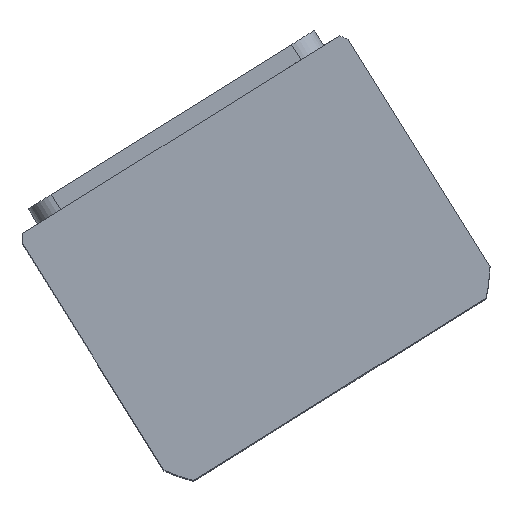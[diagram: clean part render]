
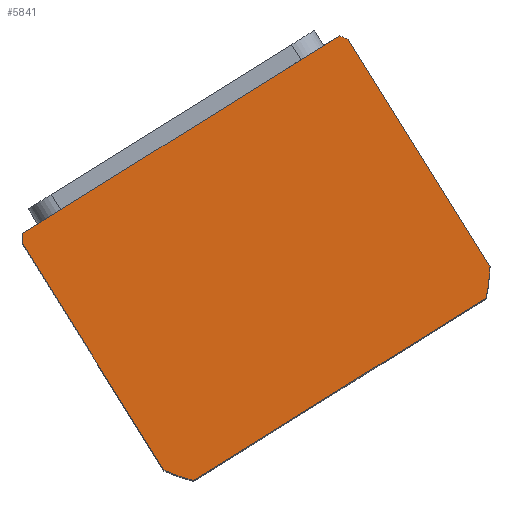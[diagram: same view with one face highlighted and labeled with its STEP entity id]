
A CAD part, top view. The second image highlights one B-rep face of the part: STEP entity #5841.
In plain terms, the highlighted planar face has unit normal (0, 0, 1) as drawn and (0, 0, -1) by its records, which use the part's own axes.
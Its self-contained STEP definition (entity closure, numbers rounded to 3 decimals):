
#130 = VERTEX_POINT ( 'NONE', #17025 ) ;
#387 = DIRECTION ( 'NONE',  ( 1., 0., 0. ) ) ;
#590 = VERTEX_POINT ( 'NONE', #16563 ) ;
#799 = EDGE_CURVE ( 'NONE', #7710, #15273, #21201, .T. ) ;
#1049 = CIRCLE ( 'NONE', #6453, 69.5 ) ;
#1474 = DIRECTION ( 'NONE',  ( 0., 1., 0. ) ) ;
#1563 = DIRECTION ( 'NONE',  ( 0., -1., 0. ) ) ;
#1925 = FACE_OUTER_BOUND ( 'NONE', #5365, .T. ) ;
#2555 = VERTEX_POINT ( 'NONE', #9736 ) ;
#2737 = CARTESIAN_POINT ( 'NONE',  ( 0., 0., 0. ) ) ;
#3129 = LINE ( 'NONE', #10257, #20833 ) ;
#3753 = CARTESIAN_POINT ( 'NONE',  ( 0., 2.5, 0. ) ) ;
#4355 = AXIS2_PLACEMENT_3D ( 'NONE', #4539, #16909, #6316 ) ;
#4539 = CARTESIAN_POINT ( 'NONE',  ( 0., 2.5, 0. ) ) ;
#5365 = EDGE_LOOP ( 'NONE', ( #18105, #7582, #20040, #9229, #8096, #20532, #18897, #14671 ) ) ;
#5438 = VERTEX_POINT ( 'NONE', #8619 ) ;
#5538 = DIRECTION ( 'NONE',  ( 1., 0., 0. ) ) ;
#5606 = VERTEX_POINT ( 'NONE', #12701 ) ;
#5808 = EDGE_CURVE ( 'NONE', #590, #15695, #16616, .T. ) ;
#5841 = ADVANCED_FACE ( 'NONE', ( #1925 ), #8088, .F. ) ;
#6316 = DIRECTION ( 'NONE',  ( 1., 0., 0. ) ) ;
#6453 = AXIS2_PLACEMENT_3D ( 'NONE', #21575, #11030, #387 ) ;
#7019 = CARTESIAN_POINT ( 'NONE',  ( 0., 2.5, 0. ) ) ;
#7073 = VECTOR ( 'NONE', #1563, 1000. ) ;
#7582 = ORIENTED_EDGE ( 'NONE', *, *, #18567, .F. ) ;
#7643 = DIRECTION ( 'NONE',  ( 1., 0., 0. ) ) ;
#7710 = VERTEX_POINT ( 'NONE', #17586 ) ;
#8088 = PLANE ( 'NONE',  #9110 ) ;
#8096 = ORIENTED_EDGE ( 'NONE', *, *, #13810, .F. ) ;
#8619 = CARTESIAN_POINT ( 'NONE',  ( 57., 42.265, 0. ) ) ;
#8812 = DIRECTION ( 'NONE',  ( 1., 0., 0. ) ) ;
#9020 = LINE ( 'NONE', #18244, #17317 ) ;
#9110 = AXIS2_PLACEMENT_3D ( 'NONE', #2737, #9882, #22224 ) ;
#9229 = ORIENTED_EDGE ( 'NONE', *, *, #11881, .F. ) ;
#9471 = AXIS2_PLACEMENT_3D ( 'NONE', #7019, #19393, #8812 ) ;
#9736 = CARTESIAN_POINT ( 'NONE',  ( 55.374, 44.5, 0. ) ) ;
#9882 = DIRECTION ( 'NONE',  ( 0., 0., 1. ) ) ;
#10001 = EDGE_CURVE ( 'NONE', #5438, #2555, #1049, .T. ) ;
#10257 = CARTESIAN_POINT ( 'NONE',  ( 57., 44.5, 0. ) ) ;
#11030 = DIRECTION ( 'NONE',  ( 0., 0., 1. ) ) ;
#11259 = LINE ( 'NONE', #13960, #7073 ) ;
#11268 = CARTESIAN_POINT ( 'NONE',  ( -57., 44.5, 0. ) ) ;
#11328 = EDGE_CURVE ( 'NONE', #15695, #5606, #11259, .T. ) ;
#11881 = EDGE_CURVE ( 'NONE', #130, #7710, #9020, .T. ) ;
#12193 = DIRECTION ( 'NONE',  ( -1., 0., 0. ) ) ;
#12532 = VECTOR ( 'NONE', #12193, 1000. ) ;
#12701 = CARTESIAN_POINT ( 'NONE',  ( -57., -37.265, 0. ) ) ;
#13810 = EDGE_CURVE ( 'NONE', #5606, #130, #15051, .T. ) ;
#13960 = CARTESIAN_POINT ( 'NONE',  ( -57., 44.5, 0. ) ) ;
#14138 = CARTESIAN_POINT ( 'NONE',  ( -57., 42.265, 0. ) ) ;
#14671 = ORIENTED_EDGE ( 'NONE', *, *, #19908, .F. ) ;
#15051 = CIRCLE ( 'NONE', #9471, 69.5 ) ;
#15273 = VERTEX_POINT ( 'NONE', #20685 ) ;
#15695 = VERTEX_POINT ( 'NONE', #14138 ) ;
#16129 = DIRECTION ( 'NONE',  ( 0., 0., 1. ) ) ;
#16563 = CARTESIAN_POINT ( 'NONE',  ( -55.374, 44.5, 0. ) ) ;
#16616 = CIRCLE ( 'NONE', #4355, 69.5 ) ;
#16909 = DIRECTION ( 'NONE',  ( 0., 0., 1. ) ) ;
#17025 = CARTESIAN_POINT ( 'NONE',  ( -51.198, -44.5, 0. ) ) ;
#17317 = VECTOR ( 'NONE', #7643, 1000. ) ;
#17586 = CARTESIAN_POINT ( 'NONE',  ( 51.198, -44.5, 0. ) ) ;
#18105 = ORIENTED_EDGE ( 'NONE', *, *, #10001, .F. ) ;
#18244 = CARTESIAN_POINT ( 'NONE',  ( -57., -44.5, 0. ) ) ;
#18567 = EDGE_CURVE ( 'NONE', #15273, #5438, #3129, .T. ) ;
#18728 = AXIS2_PLACEMENT_3D ( 'NONE', #3753, #16129, #5538 ) ;
#18897 = ORIENTED_EDGE ( 'NONE', *, *, #5808, .F. ) ;
#19393 = DIRECTION ( 'NONE',  ( 0., 0., 1. ) ) ;
#19908 = EDGE_CURVE ( 'NONE', #2555, #590, #21913, .T. ) ;
#20040 = ORIENTED_EDGE ( 'NONE', *, *, #799, .F. ) ;
#20532 = ORIENTED_EDGE ( 'NONE', *, *, #11328, .F. ) ;
#20685 = CARTESIAN_POINT ( 'NONE',  ( 57., -37.265, 0. ) ) ;
#20833 = VECTOR ( 'NONE', #1474, 1000. ) ;
#21201 = CIRCLE ( 'NONE', #18728, 69.5 ) ;
#21575 = CARTESIAN_POINT ( 'NONE',  ( 0., 2.5, 0. ) ) ;
#21913 = LINE ( 'NONE', #11268, #12532 ) ;
#22224 = DIRECTION ( 'NONE',  ( 1., 0., 0. ) ) ;
